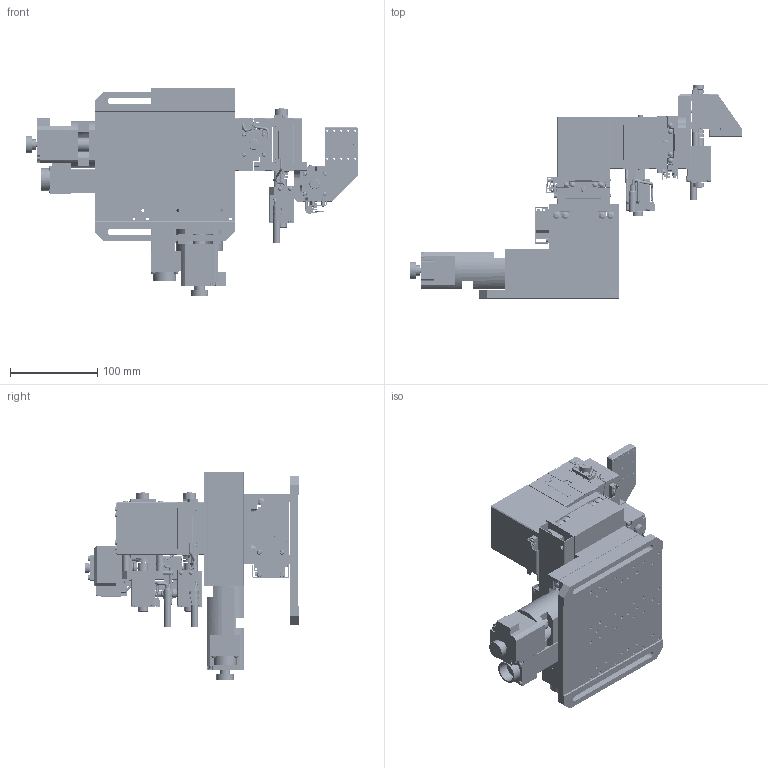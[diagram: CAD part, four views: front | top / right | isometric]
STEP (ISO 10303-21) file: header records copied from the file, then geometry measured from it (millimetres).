
FILE_DESCRIPTION (( 'STEP AP214' ), '1' );
FILE_NAME ('ES6212-L(3D).STEP', '2020-10-23T07:48:05', ( '' ), ( '' ), 'SwSTEP 2.0', 'SolidWorks 2017', '' );
FILE_SCHEMA (( 'AUTOMOTIVE_DESIGN' ));
Length unit declared in the file: millimetre
Products named in the file (57): A49-4^ES6212-L(3D); Copy of KXC06020-G-1^KXC06020-G_ES6212-L(3D); Copy of E5200-02^E5200-02_ES6212-L(3D); Copy of CBM4x6^E3000-01A_ES6212-L(3D); E5200-04^ES6212-L(3D); Copy of KGW04-05A(カバー)^KGW04040-L_ES6212-L(3D); Copy of CBM3x8^E5200-03_ES6212-L(3D); Copy of CBM4x16^KXC06020-G_ES6212-L(3D); Copy of KXC06020-G-2^KXC06020-G_ES6212-L(3D); Copy of E3000-01A^E3000-01A_ES6212-L(3D); KGW06075-R^ES6212-L(3D); Copy of CBM4x10^A49-D_ES6212-L(3D); Copy of B54-4U-4^KGW04040-L_ES6212-L(3D); KS102-70LG-5^ES6212-L(3D); Copy of CBM4x6^A49-H_ES6212-L(3D); Copy of CBM3x30^E5200-01_ES6212-L(3D); Copy of K501-40U-01B^KGW04040-L_ES6212-L(3D); Copy of A49-D^A49-D_ES6212-L(3D); Copy of 2^KGW06075-R_ES6212-L(3D); KS102-70RG_2^KS102-70RG-5_ES6212-L(3D); KS102-70LG_2^KS102-70LG-5_ES6212-L(3D); E5200-01^ES6212-L(3D); Copy of 1^KGW04040-L_ES6212-L(3D); Copy of 1^KGW06075-R_ES6212-L(3D); A49-H^ES6212-L(3D); A24-5^ES6212-L(3D); Copy of PPSA4-8^E5200-02_ES6212-L(3D); Copy of E5200-01^E5200-01_ES6212-L(3D); Copy of CBM3x8^E5200-02_ES6212-L(3D); Copy of E5200-04A^E5200-04_ES6212-L(3D); Copy of CBM4x10^KGW06075-R_ES6212-L(3D); Copy of CBM4x8^E5200-02_ES6212-L(3D); Copy of NKJ3-5^E5200-04_ES6212-L(3D); Copy of A49-4^A49-4_ES6212-L(3D); KXC06020-G^ES6212-L(3D); Copy of PPSA4-8^E5200-03_ES6212-L(3D); Copy of CBM4x8^A49-4_ES6212-L(3D); E5200-02^ES6212-L(3D); Copy of CBM4x10^KGW06075-L_ES6212-L(3D); ES6212-L(3D)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
Assembly tree (91 placements, depth 4):
  ES6212-L(3D)
    A24-5^ES6212-L(3D)
    KS102-70RG-5^ES6212-L(3D)
      KS102-70RG_1^KS102-70RG-5_ES6212-L(3D)
      KS102-70RG_2^KS102-70RG-5_ES6212-L(3D)
    KS102-70LG-5^ES6212-L(3D)
      KS102-70LG_1^KS102-70LG-5_ES6212-L(3D)
      KS102-70LG_2^KS102-70LG-5_ES6212-L(3D)
    KGW06075-L^ES6212-L(3D)
      Copy of KGW06075-L-bace^KGW06075-L_ES6212-L(3D)
      Copy of KGW06075-L-plate^KGW06075-L_ES6212-L(3D)
      Copy of CBM4x10^KGW06075-L_ES6212-L(3D)  x4
    KXC06020-G^ES6212-L(3D)
      Copy of KXC06020-G-1^KXC06020-G_ES6212-L(3D)
      Copy of KXC06020-G-2^KXC06020-G_ES6212-L(3D)
      Copy of CBM4x16^KXC06020-G_ES6212-L(3D)  x4
    KGW06075-R^ES6212-L(3D)
      Copy of 1^KGW06075-R_ES6212-L(3D)
      Copy of 2^KGW06075-R_ES6212-L(3D)
      Copy of CBM4x10^KGW06075-R_ES6212-L(3D)  x4
    KGW04040-L^ES6212-L(3D)
      Copy of 1^KGW04040-L_ES6212-L(3D)
      Copy of K501-40U-01B^KGW04040-L_ES6212-L(3D)
      Copy of KGW04-05A(カバー)^KGW04040-L_ES6212-L(3D)
        Copy of 十字穴付き小ねじ さら M2x3^Copy of KGW04-05A(カバー)_KGW04040-L_ES6212-L(3D)  x2
        Copy of KGW04-05A^Copy of KGW04-05A(カバー)_KGW04040-L_ES6212-L(3D)
      Copy of B54-4U-4^KGW04040-L_ES6212-L(3D)
      Copy of 咂廌KGW04040-L_ES6212-L(3D)  x2
      Copy of CBM3x6^KGW04040-L_ES6212-L(3D)  x4
    E3000-01A^ES6212-L(3D)
      Copy of E3000-01A^E3000-01A_ES6212-L(3D)
      Copy of CBM4x6^E3000-01A_ES6212-L(3D)  x4
    A49-D^ES6212-L(3D)
      Copy of A49-D^A49-D_ES6212-L(3D)
      Copy of CBM4x10^A49-D_ES6212-L(3D)  x4
    A49-H^ES6212-L(3D)
      Copy of A49-H^A49-H_ES6212-L(3D)
      Copy of CBM4x6^A49-H_ES6212-L(3D)  x4
    A49-4^ES6212-L(3D)
      Copy of A49-4^A49-4_ES6212-L(3D)
      Copy of CBM4x8^A49-4_ES6212-L(3D)  x4
    E5200-01^ES6212-L(3D)
      Copy of E5200-01^E5200-01_ES6212-L(3D)
      Copy of CBM3x30^E5200-01_ES6212-L(3D)  x4
    E5200-02^ES6212-L(3D)
      Copy of E5200-02^E5200-02_ES6212-L(3D)
      Copy of CBM4x8^E5200-02_ES6212-L(3D)  x2
      Copy of CBM3x8^E5200-02_ES6212-L(3D)  x2
      Copy of PPSA4-8^E5200-02_ES6212-L(3D)
      Copy (2) of PPSA4-8^E5200-02_ES6212-L(3D)
    E5200-03^ES6212-L(3D)
      Copy of E5200-03^E5200-03_ES6212-L(3D)
      Copy of CBM3x8^E5200-03_ES6212-L(3D)  x4
      Copy of PPSA4-8^E5200-03_ES6212-L(3D)
    E5200-04^ES6212-L(3D)
      Copy of E5200-04A^E5200-04_ES6212-L(3D)
      Copy of NKJ3-5^E5200-04_ES6212-L(3D)  x2
Bounding box: 379.5 x 243.8 x 238.77 mm (x, y, z)
Volume: 2382041.8 mm3; surface area: 659413.5 mm2
Topology: 30 solids, 160 shells, 6192 faces, 15703 edges, 10092 vertices
Faces by surface type: plane 2825, cylinder 2426, cone 612, bspline 171, torus 82, sphere 76
Entity records: 199301 total; most frequent: CARTESIAN_POINT 47004, DIRECTION 29024, ORIENTED_EDGE 28124, EDGE_CURVE 14062, AXIS2_PLACEMENT_3D 10424, VERTEX_POINT 9170, VECTOR 8176, LINE 8176
